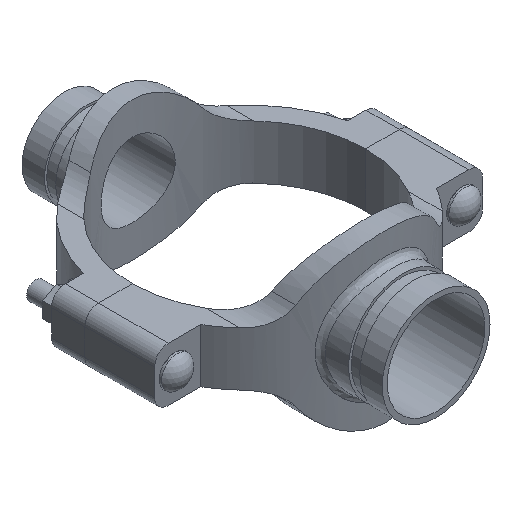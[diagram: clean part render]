
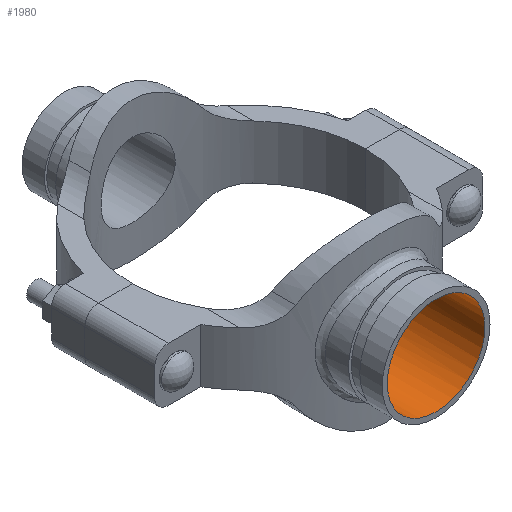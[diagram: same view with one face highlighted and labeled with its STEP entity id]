
A CAD part, isometric view. The second image highlights one B-rep face of the part: STEP entity #1980.
In plain terms, the highlighted cylindrical face has radius 34.493 mm (diameter 68.986 mm), a full revolution.
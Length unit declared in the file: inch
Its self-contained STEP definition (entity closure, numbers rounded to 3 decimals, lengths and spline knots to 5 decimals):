
#50=B_SPLINE_CURVE_WITH_KNOTS('',3,(#4016,#4017,#4018,#4019,#4020,#4021,
#4022,#4023,#4024,#4025,#4026,#4027,#4028,#4029,#4030,#4031,#4032,#4033,
#4034,#4035,#4036,#4037,#4038,#4039,#4040,#4041,#4042,#4043,#4044,#4045,
#4046,#4047,#4048,#4049,#4050,#4051,#4052,#4053,#4054,#4055,#4056,#4057,
#4058,#4059,#4060,#4061,#4062,#4063,#4064,#4065,#4066,#4067,#4068,#4069,
#4070,#4071,#4072,#4073,#4074,#4075,#4076,#4077,#4078,#4079,#4080,#4081),
 .UNSPECIFIED.,.T.,.F.,(4,2,2,2,2,2,2,2,2,2,2,2,2,2,2,2,2,2,2,2,2,2,2,2,
2,2,2,2,2,2,2,2,4),(0.,0.65894,1.31787,1.97681,
2.63574,3.29387,3.952,4.61013,5.26826,
5.92639,6.58452,7.24265,7.90078,8.55972,
9.21865,9.87759,10.53652,11.19546,11.8544,
12.51333,13.17227,13.8304,14.48853,15.14666,
15.80479,16.46292,17.12105,17.77918,18.4373,
19.09624,19.75518,20.41411,21.07305),
 .UNSPECIFIED.);
#95=CYLINDRICAL_SURFACE('',#2217,1.358);
#212=FACE_OUTER_BOUND('',#334,.T.);
#334=EDGE_LOOP('',(#1592,#1593,#1594,#1595));
#484=LINE('',#4015,#632);
#632=VECTOR('',#2682,1.358);
#734=CIRCLE('',#2218,1.358);
#899=VERTEX_POINT('',#4012);
#900=VERTEX_POINT('',#4014);
#1144=EDGE_CURVE('',#899,#899,#734,.T.);
#1145=EDGE_CURVE('',#899,#900,#484,.T.);
#1146=EDGE_CURVE('',#900,#900,#50,.T.);
#1592=ORIENTED_EDGE('',*,*,#1144,.F.);
#1593=ORIENTED_EDGE('',*,*,#1145,.T.);
#1594=ORIENTED_EDGE('',*,*,#1146,.F.);
#1595=ORIENTED_EDGE('',*,*,#1145,.F.);
#1980=ADVANCED_FACE('',(#212),#95,.F.);
#2217=AXIS2_PLACEMENT_3D('',#4011,#2678,#2679);
#2218=AXIS2_PLACEMENT_3D('',#4013,#2680,#2681);
#2678=DIRECTION('center_axis',(0.,-1.,0.));
#2679=DIRECTION('ref_axis',(-1.,0.,0.));
#2680=DIRECTION('center_axis',(0.,-1.,0.));
#2681=DIRECTION('ref_axis',(-1.,0.,0.));
#2682=DIRECTION('',(0.,-1.,0.));
#4011=CARTESIAN_POINT('Origin',(0.,5.21,0.));
#4012=CARTESIAN_POINT('',(1.358,5.21,0.));
#4013=CARTESIAN_POINT('Origin',(0.,5.21,0.));
#4014=CARTESIAN_POINT('',(1.358,2.95268,0.));
#4015=CARTESIAN_POINT('',(1.358,5.21,0.));
#4016=CARTESIAN_POINT('Ctrl Pts',(1.358,2.95268,0.));
#4017=CARTESIAN_POINT('Ctrl Pts',(1.358,2.95268,-0.08647));
#4018=CARTESIAN_POINT('Ctrl Pts',(1.34961,2.95659,-0.1755));
#4019=CARTESIAN_POINT('Ctrl Pts',(1.3147,2.97227,-0.35185));
#4020=CARTESIAN_POINT('Ctrl Pts',(1.2882,2.98403,-0.43917));
#4021=CARTESIAN_POINT('Ctrl Pts',(1.21861,3.01312,-0.60607));
#4022=CARTESIAN_POINT('Ctrl Pts',(1.17547,3.03044,-0.6858));
#4023=CARTESIAN_POINT('Ctrl Pts',(1.07616,3.06711,-0.83302));
#4024=CARTESIAN_POINT('Ctrl Pts',(1.01999,3.08643,-0.90052));
#4025=CARTESIAN_POINT('Ctrl Pts',(0.90059,3.12335,-1.01991));
#4026=CARTESIAN_POINT('Ctrl Pts',(0.83313,3.14231,-1.07608));
#4027=CARTESIAN_POINT('Ctrl Pts',(0.68589,3.1777,-1.17542));
#4028=CARTESIAN_POINT('Ctrl Pts',(0.60611,3.1941,-1.2186));
#4029=CARTESIAN_POINT('Ctrl Pts',(0.4391,3.22131,-1.28823));
#4030=CARTESIAN_POINT('Ctrl Pts',(0.35172,3.23212,-1.31474));
#4031=CARTESIAN_POINT('Ctrl Pts',(0.17536,3.24647,-1.34963));
#4032=CARTESIAN_POINT('Ctrl Pts',(0.08637,3.25,-1.358));
#4033=CARTESIAN_POINT('Ctrl Pts',(-0.08637,3.25,-1.358));
#4034=CARTESIAN_POINT('Ctrl Pts',(-0.17536,3.24647,-1.34963));
#4035=CARTESIAN_POINT('Ctrl Pts',(-0.35172,3.23212,-1.31474));
#4036=CARTESIAN_POINT('Ctrl Pts',(-0.4391,3.22131,-1.28823));
#4037=CARTESIAN_POINT('Ctrl Pts',(-0.60611,3.1941,-1.2186));
#4038=CARTESIAN_POINT('Ctrl Pts',(-0.68589,3.1777,-1.17542));
#4039=CARTESIAN_POINT('Ctrl Pts',(-0.83313,3.14231,-1.07608));
#4040=CARTESIAN_POINT('Ctrl Pts',(-0.90059,3.12335,-1.01991));
#4041=CARTESIAN_POINT('Ctrl Pts',(-1.01999,3.08643,-0.90052));
#4042=CARTESIAN_POINT('Ctrl Pts',(-1.07616,3.06711,-0.83302));
#4043=CARTESIAN_POINT('Ctrl Pts',(-1.17547,3.03044,-0.6858));
#4044=CARTESIAN_POINT('Ctrl Pts',(-1.21861,3.01312,-0.60607));
#4045=CARTESIAN_POINT('Ctrl Pts',(-1.2882,2.98403,-0.43917));
#4046=CARTESIAN_POINT('Ctrl Pts',(-1.3147,2.97227,-0.35185));
#4047=CARTESIAN_POINT('Ctrl Pts',(-1.34961,2.95659,-0.1755));
#4048=CARTESIAN_POINT('Ctrl Pts',(-1.358,2.95268,-0.08647));
#4049=CARTESIAN_POINT('Ctrl Pts',(-1.358,2.95268,0.08647));
#4050=CARTESIAN_POINT('Ctrl Pts',(-1.34961,2.95659,0.1755));
#4051=CARTESIAN_POINT('Ctrl Pts',(-1.3147,2.97227,0.35185));
#4052=CARTESIAN_POINT('Ctrl Pts',(-1.2882,2.98403,0.43917));
#4053=CARTESIAN_POINT('Ctrl Pts',(-1.21861,3.01312,0.60607));
#4054=CARTESIAN_POINT('Ctrl Pts',(-1.17547,3.03044,0.6858));
#4055=CARTESIAN_POINT('Ctrl Pts',(-1.07616,3.06711,0.83302));
#4056=CARTESIAN_POINT('Ctrl Pts',(-1.01999,3.08643,0.90052));
#4057=CARTESIAN_POINT('Ctrl Pts',(-0.90059,3.12335,1.01991));
#4058=CARTESIAN_POINT('Ctrl Pts',(-0.83313,3.14231,1.07608));
#4059=CARTESIAN_POINT('Ctrl Pts',(-0.68589,3.1777,1.17542));
#4060=CARTESIAN_POINT('Ctrl Pts',(-0.60611,3.1941,1.2186));
#4061=CARTESIAN_POINT('Ctrl Pts',(-0.4391,3.22131,1.28823));
#4062=CARTESIAN_POINT('Ctrl Pts',(-0.35172,3.23212,1.31474));
#4063=CARTESIAN_POINT('Ctrl Pts',(-0.17536,3.24647,1.34963));
#4064=CARTESIAN_POINT('Ctrl Pts',(-0.08637,3.25,1.358));
#4065=CARTESIAN_POINT('Ctrl Pts',(0.08637,3.25,1.358));
#4066=CARTESIAN_POINT('Ctrl Pts',(0.17536,3.24647,1.34963));
#4067=CARTESIAN_POINT('Ctrl Pts',(0.35172,3.23212,1.31474));
#4068=CARTESIAN_POINT('Ctrl Pts',(0.4391,3.22131,1.28823));
#4069=CARTESIAN_POINT('Ctrl Pts',(0.60611,3.1941,1.2186));
#4070=CARTESIAN_POINT('Ctrl Pts',(0.68589,3.1777,1.17542));
#4071=CARTESIAN_POINT('Ctrl Pts',(0.83313,3.14231,1.07608));
#4072=CARTESIAN_POINT('Ctrl Pts',(0.90059,3.12335,1.01991));
#4073=CARTESIAN_POINT('Ctrl Pts',(1.01999,3.08643,0.90052));
#4074=CARTESIAN_POINT('Ctrl Pts',(1.07616,3.06711,0.83302));
#4075=CARTESIAN_POINT('Ctrl Pts',(1.17547,3.03044,0.6858));
#4076=CARTESIAN_POINT('Ctrl Pts',(1.21861,3.01312,0.60607));
#4077=CARTESIAN_POINT('Ctrl Pts',(1.2882,2.98403,0.43917));
#4078=CARTESIAN_POINT('Ctrl Pts',(1.3147,2.97227,0.35185));
#4079=CARTESIAN_POINT('Ctrl Pts',(1.34961,2.95659,0.1755));
#4080=CARTESIAN_POINT('Ctrl Pts',(1.358,2.95268,0.08647));
#4081=CARTESIAN_POINT('Ctrl Pts',(1.358,2.95268,0.));
